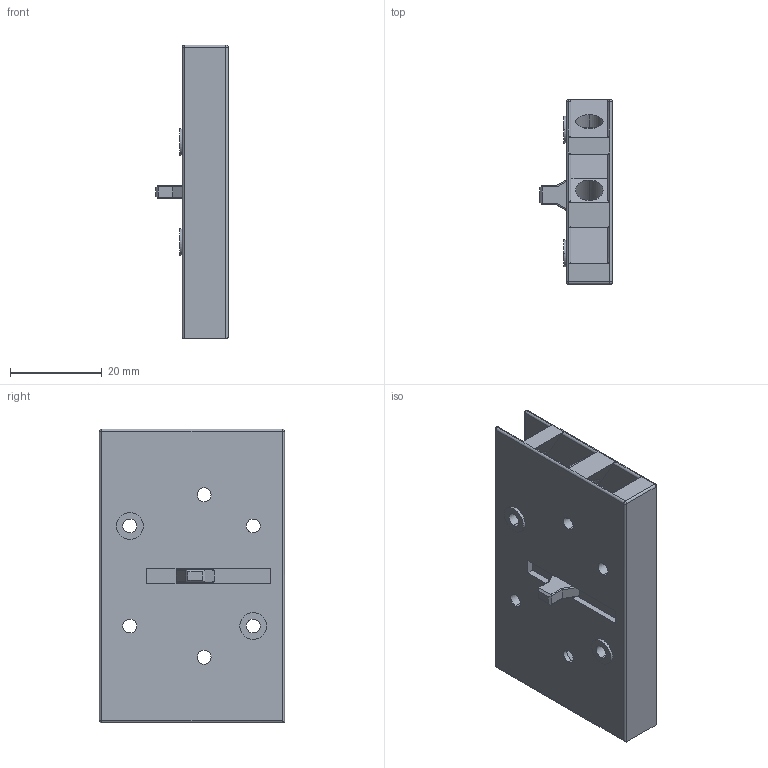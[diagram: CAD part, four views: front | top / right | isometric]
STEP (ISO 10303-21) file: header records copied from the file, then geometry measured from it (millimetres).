
FILE_DESCRIPTION (( 'STEP AP203' ), '1' );
FILE_NAME ('LH11.STEP', '2014-05-12T09:44:19', ( '' ), ( '' ), 'SwSTEP 2.0', 'SolidWorks 2014', '' );
FILE_SCHEMA (( 'CONFIG_CONTROL_DESIGN' ));
Length unit declared in the file: millimetre
Products named in the file (1): LH11
Bounding box: 15.8 x 40.3 x 64 mm (x, y, z)
Volume: 20198.7 mm3; surface area: 9913.1 mm2
Topology: 1 solids, 1 shells, 125 faces, 327 edges, 194 vertices
Faces by surface type: plane 58, cylinder 57, sphere 10
Entity records: 3818 total; most frequent: CARTESIAN_POINT 775, ORIENTED_EDGE 634, DIRECTION 601, EDGE_CURVE 317, AXIS2_PLACEMENT_3D 204, VERTEX_POINT 194, VECTOR 193, LINE 193
